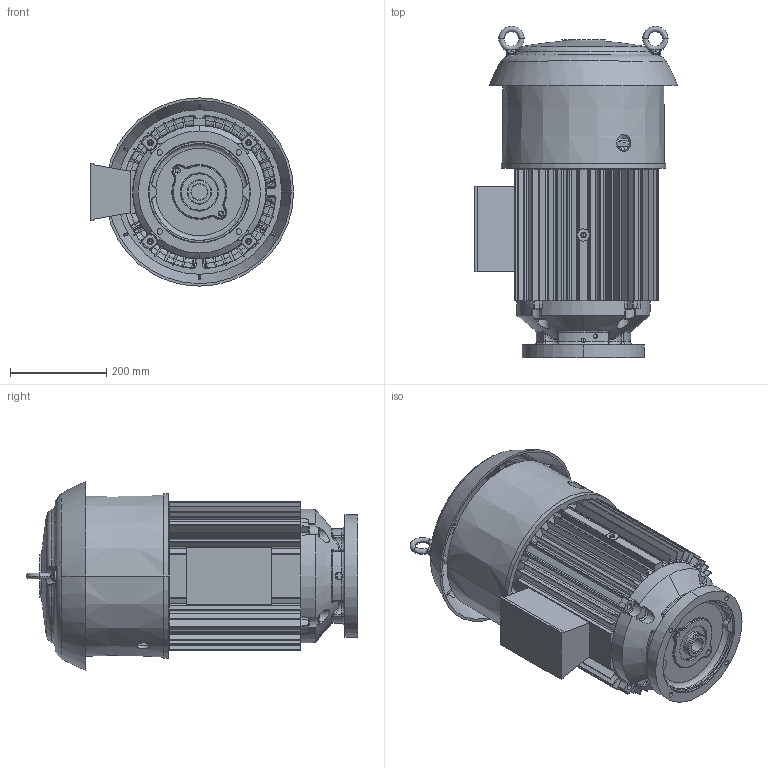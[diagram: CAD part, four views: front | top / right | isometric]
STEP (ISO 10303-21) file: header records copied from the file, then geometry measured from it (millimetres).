
FILE_DESCRIPTION((''),'2;1');
FILE_NAME('250TP_ASSY_ASM','2016-03-30T',('emd2341'),('Nidec Motor Corporation'),'PRO/ENGINEER BY PARAMETRIC TECHNOLOGY CORPORATION, 2013150','PRO/ENGINEER BY PARAMETRIC TECHNOLOGY CORPORATION, 2013150','');
FILE_SCHEMA(('CONFIG_CONTROL_DESIGN'));
Length unit declared in the file: inch
Products named in the file (9): 0353686; 0197031; 0171614; 0116910; SHAFT; 0197037-CAP; OBB; 0092999; 250TP_ASSY_ASM
Assembly tree (9 placements, depth 2):
  250TP_ASSY_ASM
    0353686
    0197031
    0171614
    0116910
    SHAFT
    0197037-CAP
    OBB
    0092999  x2
Bounding box: 421.36 x 687.25 x 390.65 mm (x, y, z)
Volume: 10227967.9 mm3; surface area: 2593523.6 mm2
Topology: 11 solids, 11 shells, 1710 faces, 4557 edges, 2848 vertices
Faces by surface type: cylinder 445, bspline 393, plane 341, cone 216, torus 186, extrusion 65, sphere 64
Entity records: 72065 total; most frequent: CARTESIAN_POINT 33198, ORIENTED_EDGE 8928, DIRECTION 7130, EDGE_CURVE 4464, AXIS2_PLACEMENT_3D 2952, VERTEX_POINT 2816, EDGE_LOOP 1806, CIRCLE 1698
